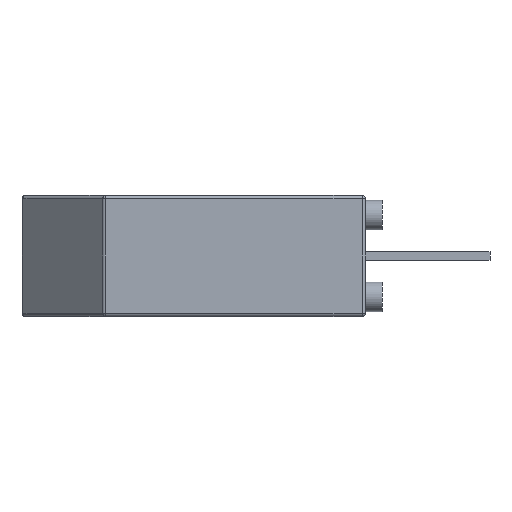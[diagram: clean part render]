
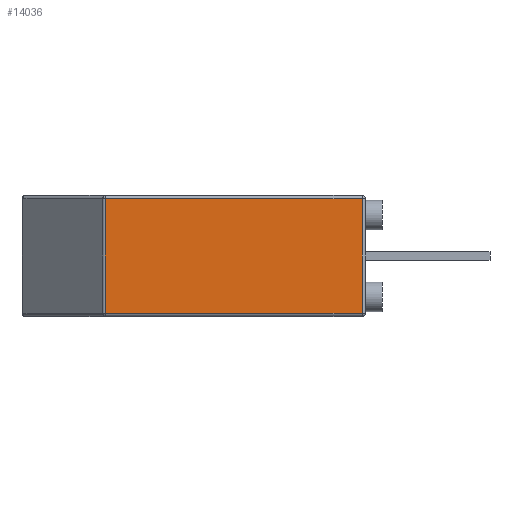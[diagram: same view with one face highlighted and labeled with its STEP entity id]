
A CAD part, left-side view. The second image highlights one B-rep face of the part: STEP entity #14036.
In plain terms, the highlighted planar face has unit normal (-1, 0, 0).
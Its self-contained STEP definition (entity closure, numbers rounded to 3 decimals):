
#2196 = CARTESIAN_POINT ( 'NONE',  ( -5., 7.951, -1.75 ) ) ;
#2197 = DIRECTION ( 'NONE',  ( 0., 0., -1. ) ) ;
#2198 = VECTOR ( 'NONE', #2197, 1000. ) ;
#2199 = CARTESIAN_POINT ( 'NONE',  ( -5., 7.951, 1.85 ) ) ;
#2200 = LINE ( 'NONE', #2199, #2198 ) ;
#2201 = CARTESIAN_POINT ( 'NONE',  ( -5., 7.951, 1.75 ) ) ;
#2211 = CARTESIAN_POINT ( 'NONE',  ( -5., 0.1, 1.85 ) ) ;
#2217 = LINE ( 'NONE', #2211, #2282 ) ;
#2252 = FACE_OUTER_BOUND ( 'NONE', #12912, .T. ) ;
#2254 = CARTESIAN_POINT ( 'NONE',  ( -5., 0.1, 1.75 ) ) ;
#2255 = DIRECTION ( 'NONE',  ( 0., 1., 0. ) ) ;
#2256 = VECTOR ( 'NONE', #2255, 1000. ) ;
#2257 = CARTESIAN_POINT ( 'NONE',  ( -5., 10.492, 1.75 ) ) ;
#2261 = LINE ( 'NONE', #2257, #2256 ) ;
#2278 = CARTESIAN_POINT ( 'NONE',  ( -5., 0.1, -1.75 ) ) ;
#2281 = DIRECTION ( 'NONE',  ( 0., 0., 1. ) ) ;
#2282 = VECTOR ( 'NONE', #2281, 1000. ) ;
#2307 = DIRECTION ( 'NONE',  ( 0., 0., -1. ) ) ;
#2308 = DIRECTION ( 'NONE',  ( 1., 0., 0. ) ) ;
#2309 = CARTESIAN_POINT ( 'NONE',  ( -5., 10.492, 1.85 ) ) ;
#2310 = AXIS2_PLACEMENT_3D ( 'NONE', #2309, #2308, #2307 ) ;
#2311 = PLANE ( 'NONE',  #2310 ) ;
#2590 = DIRECTION ( 'NONE',  ( 0., -1., 0. ) ) ;
#2591 = VECTOR ( 'NONE', #2590, 1000. ) ;
#2592 = CARTESIAN_POINT ( 'NONE',  ( -5., 10.492, -1.75 ) ) ;
#2593 = LINE ( 'NONE', #2592, #2591 ) ;
#12912 = EDGE_LOOP ( 'NONE', ( #12919, #13987, #13195, #15287 ) ) ;
#12919 = ORIENTED_EDGE ( 'NONE', *, *, #13777, .T. ) ;
#13188 = VERTEX_POINT ( 'NONE', #2201 ) ;
#13195 = ORIENTED_EDGE ( 'NONE', *, *, #13197, .T. ) ;
#13197 = EDGE_CURVE ( 'NONE', #13188, #13204, #2200, .T. ) ;
#13204 = VERTEX_POINT ( 'NONE', #2196 ) ;
#13777 = EDGE_CURVE ( 'NONE', #13837, #13979, #2217, .T. ) ;
#13837 = VERTEX_POINT ( 'NONE', #2278 ) ;
#13976 = EDGE_CURVE ( 'NONE', #13979, #13188, #2261, .T. ) ;
#13979 = VERTEX_POINT ( 'NONE', #2254 ) ;
#13987 = ORIENTED_EDGE ( 'NONE', *, *, #13976, .T. ) ;
#14036 = ADVANCED_FACE ( 'NONE', ( #2252 ), #2311, .F. ) ;
#15287 = ORIENTED_EDGE ( 'NONE', *, *, #19401, .T. ) ;
#19401 = EDGE_CURVE ( 'NONE', #13204, #13837, #2593, .T. ) ;
